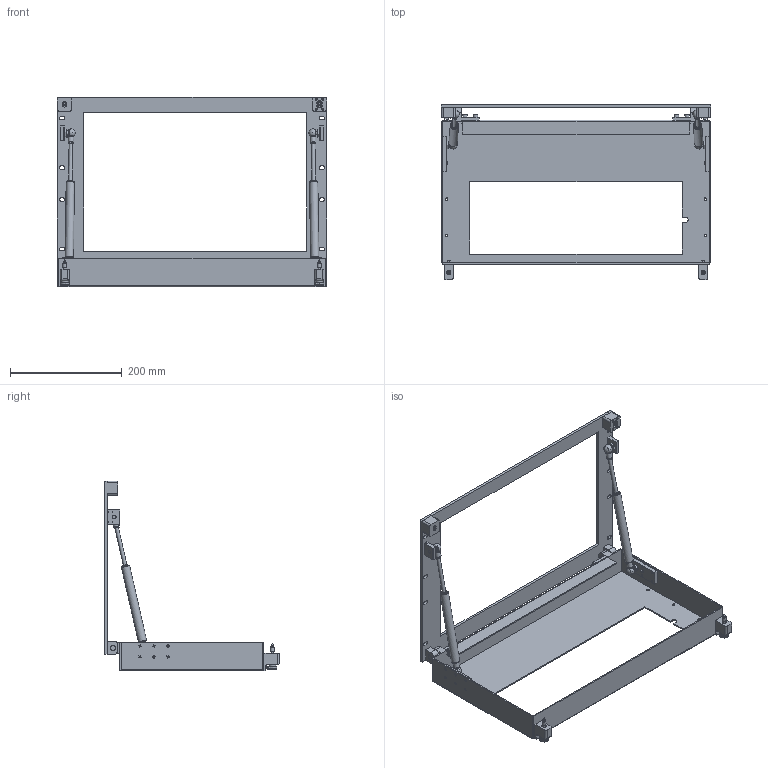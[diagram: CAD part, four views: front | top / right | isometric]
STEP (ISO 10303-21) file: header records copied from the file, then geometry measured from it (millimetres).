
FILE_DESCRIPTION(/* description */ (''),/* implementation_level */ '2;1');
FILE_NAME(/* name */ 'D:\CAD\CAD COMPLETE\web site project\Receiver Mounting Kits\12399-22-RevB-STP\12399-22-RevB-Open-STP.stp',/* time_stamp */ '2018-01-08T12:31:12+00:00',/* author */ ('davec'),/* organization */ (''),/* preprocessor_version */ 'ST-DEVELOPER v15.2',/* originating_system */ 'Autodesk Inventor 2014',/* authorisation */ '');
FILE_SCHEMA (('AUTOMOTIVE_DESIGN { 1 0 10303 214 3 1 1 }'));
Products named in the file (1): 12399-22-CU
Bounding box: 482.6 x 313.65 x 340.22 mm (x, y, z)
Volume: 757297.7 mm3; surface area: 496434 mm2
Topology: 30 solids, 43 shells, 2811 faces, 7756 edges, 5155 vertices
Faces by surface type: plane 1708, cylinder 729, cone 184, bspline 158, sphere 16, torus 16
Full cylindrical faces by diameter (mm): 0.005 x2, 0.025 x4, 1.016 x12, 1.143 x8, 2.642 x2, 3.302 x20, 3.505 x18, 3.81 x4, 4.064 x2, 4.166 x8, 4.432 x4, 4.496 x18, 4.826 x8, 4.851 x12, 4.928 x6, 4.978 x2, 5.055 x4, 5.105 x4, 5.74 x4, 6 x2, 6.35 x6, 6.401 x4, 7.925 x4, 7.938 x4, 8.382 x4, 8.839 x2, 9.5 x2, 9.525 x2, 9.55 x2, 9.906 x2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
Entity records: 99179 total; most frequent: CARTESIAN_POINT 31646, ORIENTED_EDGE 14528, DIRECTION 12144, EDGE_CURVE 7252, VERTEX_POINT 4976, AXIS2_PLACEMENT_3D 4346, LINE 3452, VECTOR 3452
